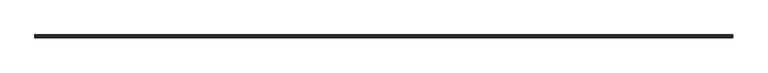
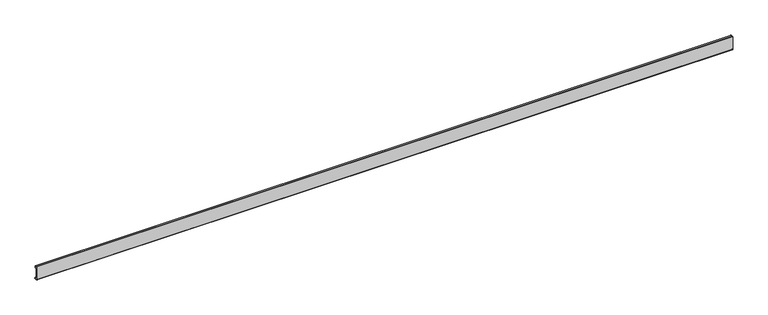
"""IFC4 building model written with IfcOpenShell, lengths in millimetres: proxy geometry, Weiku - Montante - Capa de folha 02.3.02.406 : Weiku - Montante - Capa de folha 02.3.02.406."""

from ifc_helpers import new_model, si_unit, point, frame, frame_2d, origin, place, context, project, spatial, polyline, circle_curve, trimmed, segment, composite_curve, outline, extrude, source, transform, mapped, element, save


def generic_models_8b565922(model_context):
    return source(origin(), model_context, "Body", "SweptSolid", [
        extrude(outline(composite_curve([segment(polyline([(4.6421508, 2.2715508), (5.3603515, 1.056104)]), True, "CONTINUOUS"), segment(trimmed(circle_curve(frame_2d((4.7576991, 0.7)), 0.7), [point((5.3603515, 1.056104))], [point((4.7576991, 0.0))], False, "CARTESIAN"), True, "CONTINUOUS"), segment(polyline([(4.7576991, 0.0), (0.5, 0.0)]), True, "CONTINUOUS"), segment(trimmed(circle_curve(frame_2d((0.5, 0.5)), 0.5), [point((0.5, 0.0))], [point((0.0, 0.5))], False, "CARTESIAN"), True, "CONTINUOUS"), segment(polyline([(0.0, 0.5), (0.0, 26.2)]), True, "CONTINUOUS"), segment(trimmed(circle_curve(frame_2d((0.5, 26.2)), 0.5), [point((0.0, 26.2))], [point((0.5, 26.7))], False, "CARTESIAN"), True, "CONTINUOUS"), segment(polyline([(0.5, 26.7), (3.78, 26.7)]), True, "CONTINUOUS"), segment(trimmed(circle_curve(frame_2d((3.78, 26.2)), 0.5), [point((3.78, 26.7))], [point((4.28, 26.2))], False, "CARTESIAN"), True, "CONTINUOUS"), segment(polyline([(4.28, 26.2), (4.28, 22.3396), (3.3063, 22.3396), (3.3063, 25.684), (1.6933, 25.684), (1.6933, 1.016), (3.3866, 1.016), (4.6421508, 2.2715508)]), True, "CONTINUOUS")], self_intersect=False)), frame((-670.4333333, 0.0, 0.0), z_axis=(1.0, 0.0, 0.0), x_axis=(0.0, 1.0, 0.0)), (0.0, 0.0, 1.0), 1340.8666667),
    ])


if __name__ == "__main__":
    model = new_model("IFC4")
    model_context = context("Model", 3, world=origin())
    ifc_project = project(units=[si_unit("LENGTHUNIT", "METRE", prefix="MILLI")], contexts=[model_context])
    site = spatial("IfcSite", under=ifc_project)
    building = spatial("IfcBuilding", under=site)
    placement = place(None, origin())
    generic_models_shape = generic_models_8b565922(model_context)
    element("IfcBuildingElementProxy", 1, Name="Weiku - Montante - Capa de folha 02.3.02.406 : Weiku - Montante - Capa de folha 02.3.02.406", ObjectType="Weiku - Montante - Capa de folha 02.3.02.406 : Weiku - Montante - Capa de folha 02.3.02.406", at=placement, inside=building, context=model_context, shape_type="MappedRepresentation", body=[
        mapped(generic_models_shape, transform((0.0, 0.0, 0.0), x_axis=(1.0, 0.0, 0.0), y_axis=(0.0, 1.0, 0.0), z_axis=(0.0, 0.0, 1.0))),
    ])
    save(model, "model.ifc")
